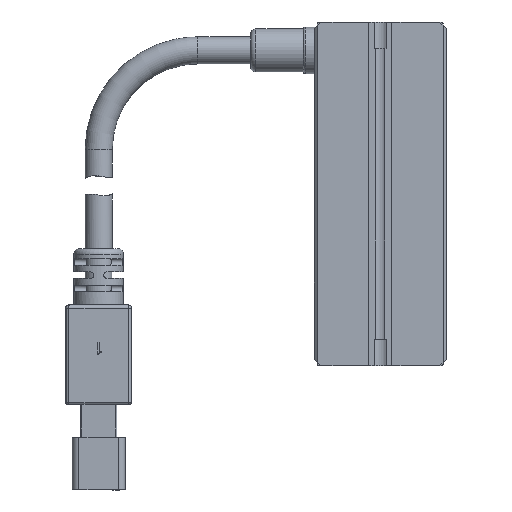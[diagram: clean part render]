
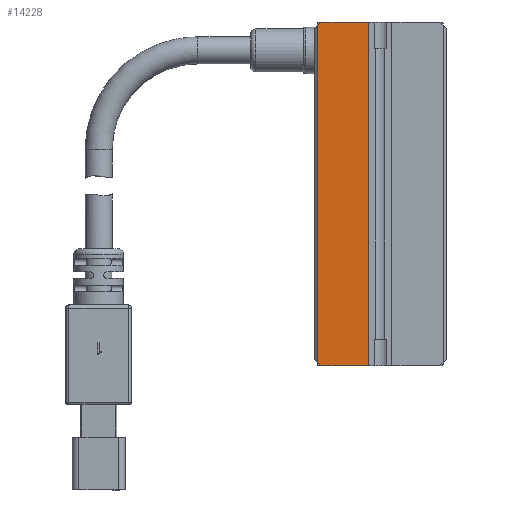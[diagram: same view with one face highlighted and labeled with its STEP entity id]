
A CAD part, front view. The second image highlights one B-rep face of the part: STEP entity #14228.
In plain terms, the highlighted planar face has unit normal (0, -1, 0).
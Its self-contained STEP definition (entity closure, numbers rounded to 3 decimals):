
#26 = DIRECTION ( 'NONE',  ( -0.707, 0., -0.707 ) ) ;
#377 = CARTESIAN_POINT ( 'NONE',  ( -1.75, 0., 26. ) ) ;
#826 = EDGE_CURVE ( 'NONE', #6508, #18279, #18607, .T. ) ;
#1565 = PLANE ( 'NONE',  #7359 ) ;
#1853 = DIRECTION ( 'NONE',  ( -1., 0., 0. ) ) ;
#2086 = CARTESIAN_POINT ( 'NONE',  ( -9.5, 0., 26. ) ) ;
#2152 = VECTOR ( 'NONE', #16937, 1000. ) ;
#2352 = ORIENTED_EDGE ( 'NONE', *, *, #4097, .F. ) ;
#2555 = FACE_OUTER_BOUND ( 'NONE', #4471, .T. ) ;
#2951 = VECTOR ( 'NONE', #9459, 1000. ) ;
#2990 = CARTESIAN_POINT ( 'NONE',  ( -4.5, 0., 30.5 ) ) ;
#3114 = EDGE_CURVE ( 'NONE', #5178, #6508, #11147, .T. ) ;
#3288 = CARTESIAN_POINT ( 'NONE',  ( -9., 0., -26. ) ) ;
#4097 = EDGE_CURVE ( 'NONE', #5135, #12378, #12705, .T. ) ;
#4471 = EDGE_LOOP ( 'NONE', ( #6353, #16080, #11189, #15313, #16421, #2352 ) ) ;
#4528 = CARTESIAN_POINT ( 'NONE',  ( 0., 0., 26. ) ) ;
#4558 = LINE ( 'NONE', #9568, #11850 ) ;
#4954 = CARTESIAN_POINT ( 'NONE',  ( -1.75, 0., 26. ) ) ;
#5135 = VERTEX_POINT ( 'NONE', #377 ) ;
#5178 = VERTEX_POINT ( 'NONE', #10650 ) ;
#5998 = DIRECTION ( 'NONE',  ( 0., -1., 0. ) ) ;
#6353 = ORIENTED_EDGE ( 'NONE', *, *, #8616, .T. ) ;
#6508 = VERTEX_POINT ( 'NONE', #16642 ) ;
#6817 = CARTESIAN_POINT ( 'NONE',  ( -1.75, 0., -26. ) ) ;
#6868 = LINE ( 'NONE', #18970, #17661 ) ;
#7273 = VECTOR ( 'NONE', #26, 1000. ) ;
#7359 = AXIS2_PLACEMENT_3D ( 'NONE', #4528, #5998, #17778 ) ;
#8616 = EDGE_CURVE ( 'NONE', #5135, #5178, #17732, .T. ) ;
#8873 = CARTESIAN_POINT ( 'NONE',  ( -9.5, 0., -25.5 ) ) ;
#9459 = DIRECTION ( 'NONE',  ( 0., 0., -1. ) ) ;
#9568 = CARTESIAN_POINT ( 'NONE',  ( 0., 0., -26. ) ) ;
#9833 = VERTEX_POINT ( 'NONE', #3288 ) ;
#10650 = CARTESIAN_POINT ( 'NONE',  ( -9., 0., 26. ) ) ;
#11043 = DIRECTION ( 'NONE',  ( -1., 0., 0. ) ) ;
#11147 = LINE ( 'NONE', #2990, #7273 ) ;
#11189 = ORIENTED_EDGE ( 'NONE', *, *, #826, .T. ) ;
#11850 = VECTOR ( 'NONE', #11043, 1000. ) ;
#12378 = VERTEX_POINT ( 'NONE', #6817 ) ;
#12705 = LINE ( 'NONE', #4954, #2152 ) ;
#13536 = CARTESIAN_POINT ( 'NONE',  ( 0., 0., 26. ) ) ;
#14228 = ADVANCED_FACE ( 'NONE', ( #2555 ), #1565, .T. ) ;
#14742 = VECTOR ( 'NONE', #1853, 1000. ) ;
#15313 = ORIENTED_EDGE ( 'NONE', *, *, #18785, .T. ) ;
#16080 = ORIENTED_EDGE ( 'NONE', *, *, #3114, .T. ) ;
#16421 = ORIENTED_EDGE ( 'NONE', *, *, #18676, .F. ) ;
#16642 = CARTESIAN_POINT ( 'NONE',  ( -9.5, 0., 25.5 ) ) ;
#16937 = DIRECTION ( 'NONE',  ( 0., 0., -1. ) ) ;
#17661 = VECTOR ( 'NONE', #18908, 1000. ) ;
#17732 = LINE ( 'NONE', #13536, #14742 ) ;
#17778 = DIRECTION ( 'NONE',  ( 1., 0., 0. ) ) ;
#18279 = VERTEX_POINT ( 'NONE', #8873 ) ;
#18607 = LINE ( 'NONE', #2086, #2951 ) ;
#18676 = EDGE_CURVE ( 'NONE', #12378, #9833, #4558, .T. ) ;
#18785 = EDGE_CURVE ( 'NONE', #18279, #9833, #6868, .T. ) ;
#18908 = DIRECTION ( 'NONE',  ( 0.707, 0., -0.707 ) ) ;
#18970 = CARTESIAN_POINT ( 'NONE',  ( -30.5, 0., -4.5 ) ) ;
